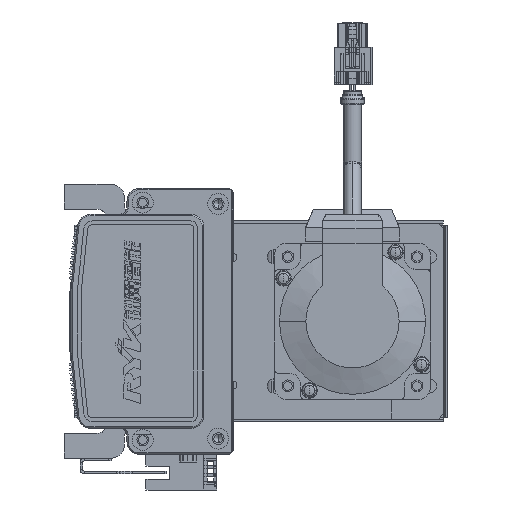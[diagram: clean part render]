
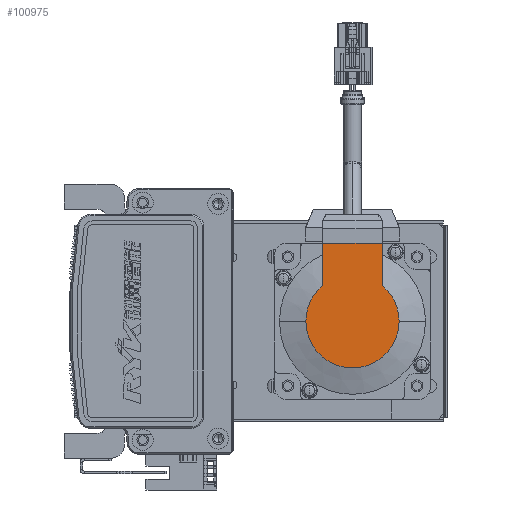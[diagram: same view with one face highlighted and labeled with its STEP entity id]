
A CAD part, left-side view. The second image highlights one B-rep face of the part: STEP entity #100975.
In plain terms, the highlighted planar face has unit normal (-1, 0, 0).
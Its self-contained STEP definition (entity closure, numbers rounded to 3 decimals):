
#5057 = FACE_OUTER_BOUND ( 'NONE', #110163, .T. ) ;
#8284 = VERTEX_POINT ( 'NONE', #57941 ) ;
#8293 = VERTEX_POINT ( 'NONE', #57921 ) ;
#8308 = VERTEX_POINT ( 'NONE', #57938 ) ;
#8507 = VERTEX_POINT ( 'NONE', #58057 ) ;
#8531 = VERTEX_POINT ( 'NONE', #58048 ) ;
#8566 = VERTEX_POINT ( 'NONE', #58045 ) ;
#17494 = CIRCLE ( 'NONE', #88577, 17.881 ) ;
#17512 = CIRCLE ( 'NONE', #88614, 17.881 ) ;
#36689 = VECTOR ( 'NONE', #40307, 1000. ) ;
#36705 = LINE ( 'NONE', #40422, #36707 ) ;
#36707 = VECTOR ( 'NONE', #40413, 1000. ) ;
#36711 = CIRCLE ( 'NONE', #88632, 17.881 ) ;
#36751 = LINE ( 'NONE', #40365, #36689 ) ;
#36828 = LINE ( 'NONE', #40635, #36871 ) ;
#36871 = VECTOR ( 'NONE', #40618, 1000. ) ;
#40192 = CARTESIAN_POINT ( 'NONE',  ( -99., 0., 0. ) ) ;
#40194 = DIRECTION ( 'NONE',  ( 0., 0., -1. ) ) ;
#40269 = DIRECTION ( 'NONE',  ( -1., 0., 0. ) ) ;
#40307 = DIRECTION ( 'NONE',  ( 0., 0., 1. ) ) ;
#40365 = CARTESIAN_POINT ( 'NONE',  ( -99., 30., 25. ) ) ;
#40413 = DIRECTION ( 'NONE',  ( 0., -1., 0. ) ) ;
#40422 = CARTESIAN_POINT ( 'NONE',  ( -99., -8.941, -11.45 ) ) ;
#40618 = DIRECTION ( 'NONE',  ( 0., -1., 0. ) ) ;
#40635 = CARTESIAN_POINT ( 'NONE',  ( -99., 0., 11.45 ) ) ;
#41935 = DIRECTION ( 'NONE',  ( -1., 0., 0. ) ) ;
#41937 = DIRECTION ( 'NONE',  ( 0., 0., -1. ) ) ;
#41942 = DIRECTION ( 'NONE',  ( -1., 0., 0. ) ) ;
#41965 = CARTESIAN_POINT ( 'NONE',  ( -99., 0., 0. ) ) ;
#41979 = CARTESIAN_POINT ( 'NONE',  ( -99., 0., 0. ) ) ;
#41984 = DIRECTION ( 'NONE',  ( 0., 0., -1. ) ) ;
#50044 = EDGE_CURVE ( 'NONE', #8293, #8308, #17512, .T. ) ;
#50045 = EDGE_CURVE ( 'NONE', #8284, #8293, #17494, .T. ) ;
#50576 = EDGE_CURVE ( 'NONE', #8507, #8284, #36711, .T. ) ;
#50628 = EDGE_CURVE ( 'NONE', #8566, #8531, #36751, .T. ) ;
#50643 = EDGE_CURVE ( 'NONE', #8566, #8507, #36705, .T. ) ;
#50726 = EDGE_CURVE ( 'NONE', #8531, #8308, #36828, .T. ) ;
#57921 = CARTESIAN_POINT ( 'NONE',  ( -99., 0., 17.881 ) ) ;
#57938 = CARTESIAN_POINT ( 'NONE',  ( -99., 13.735, 11.45 ) ) ;
#57941 = CARTESIAN_POINT ( 'NONE',  ( -99., 0., -17.881 ) ) ;
#58045 = CARTESIAN_POINT ( 'NONE',  ( -99., 30., -11.45 ) ) ;
#58048 = CARTESIAN_POINT ( 'NONE',  ( -99., 30., 11.45 ) ) ;
#58057 = CARTESIAN_POINT ( 'NONE',  ( -99., 13.735, -11.45 ) ) ;
#70241 = AXIS2_PLACEMENT_3D ( 'NONE', #104526, #104532, #104539 ) ;
#88577 = AXIS2_PLACEMENT_3D ( 'NONE', #41979, #41942, #41984 ) ;
#88614 = AXIS2_PLACEMENT_3D ( 'NONE', #41965, #41935, #41937 ) ;
#88632 = AXIS2_PLACEMENT_3D ( 'NONE', #40192, #40269, #40194 ) ;
#100874 = ORIENTED_EDGE ( 'NONE', *, *, #50643, .T. ) ;
#100941 = ORIENTED_EDGE ( 'NONE', *, *, #50576, .T. ) ;
#100975 = ADVANCED_FACE ( 'NONE', ( #5057 ), #104567, .T. ) ;
#101019 = ORIENTED_EDGE ( 'NONE', *, *, #50628, .F. ) ;
#101030 = ORIENTED_EDGE ( 'NONE', *, *, #50726, .F. ) ;
#103629 = ORIENTED_EDGE ( 'NONE', *, *, #50044, .T. ) ;
#103681 = ORIENTED_EDGE ( 'NONE', *, *, #50045, .T. ) ;
#104526 = CARTESIAN_POINT ( 'NONE',  ( -99., -8.941, 0. ) ) ;
#104532 = DIRECTION ( 'NONE',  ( -1., 0., 0. ) ) ;
#104539 = DIRECTION ( 'NONE',  ( 0., 0., 1. ) ) ;
#104567 = PLANE ( 'NONE',  #70241 ) ;
#110163 = EDGE_LOOP ( 'NONE', ( #100874, #100941, #103681, #103629, #101030, #101019 ) ) ;
